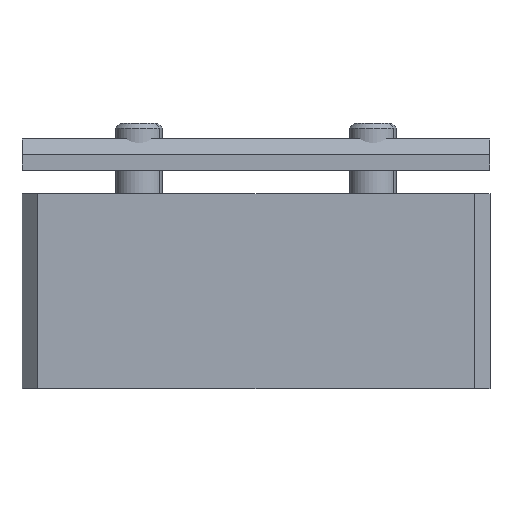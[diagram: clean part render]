
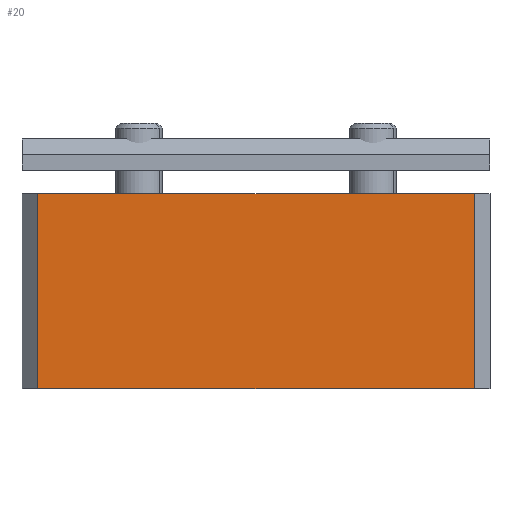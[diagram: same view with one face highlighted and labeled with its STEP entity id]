
A CAD part, front view. The second image highlights one B-rep face of the part: STEP entity #20.
In plain terms, the highlighted planar face has unit normal (0, -1, 0).
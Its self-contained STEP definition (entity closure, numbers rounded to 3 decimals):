
#20 = ADVANCED_FACE ( 'NONE', ( #1088 ), #830, .T. ) ;
#66 = AXIS2_PLACEMENT_3D ( 'NONE', #788, #1782, #1781 ) ;
#177 = EDGE_CURVE ( 'NONE', #1242, #1223, #859, .T. ) ;
#178 = EDGE_CURVE ( 'NONE', #1223, #1239, #855, .T. ) ;
#179 = EDGE_CURVE ( 'NONE', #1242, #1198, #853, .T. ) ;
#186 = EDGE_CURVE ( 'NONE', #1198, #1239, #851, .T. ) ;
#358 = CARTESIAN_POINT ( 'NONE',  ( -2., -7.5, 25. ) ) ;
#386 = CARTESIAN_POINT ( 'NONE',  ( -58., -7.5, 25. ) ) ;
#451 = CARTESIAN_POINT ( 'NONE',  ( -2., -7.5, 0. ) ) ;
#668 = DIRECTION ( 'NONE',  ( 0., 0., 1. ) ) ;
#670 = CARTESIAN_POINT ( 'NONE',  ( -58., -7.5, 0. ) ) ;
#672 = DIRECTION ( 'NONE',  ( 1., 0., 0. ) ) ;
#675 = CARTESIAN_POINT ( 'NONE',  ( -58., -7.5, 0. ) ) ;
#678 = DIRECTION ( 'NONE',  ( 1., 0., 0. ) ) ;
#679 = CARTESIAN_POINT ( 'NONE',  ( -58., -7.5, 25. ) ) ;
#681 = DIRECTION ( 'NONE',  ( 0., 0., 1. ) ) ;
#682 = CARTESIAN_POINT ( 'NONE',  ( -2., -7.5, 0. ) ) ;
#697 = CARTESIAN_POINT ( 'NONE',  ( -58., -7.5, 0. ) ) ;
#788 = CARTESIAN_POINT ( 'NONE',  ( -58., -7.5, 0. ) ) ;
#830 = PLANE ( 'NONE',  #66 ) ;
#846 = VECTOR ( 'NONE', #668, 1000. ) ;
#850 = VECTOR ( 'NONE', #672, 1000. ) ;
#851 = LINE ( 'NONE', #682, #846 ) ;
#852 = VECTOR ( 'NONE', #678, 1000. ) ;
#853 = LINE ( 'NONE', #675, #850 ) ;
#854 = VECTOR ( 'NONE', #681, 1000. ) ;
#855 = LINE ( 'NONE', #679, #852 ) ;
#859 = LINE ( 'NONE', #697, #854 ) ;
#980 = ORIENTED_EDGE ( 'NONE', *, *, #186, .T. ) ;
#987 = ORIENTED_EDGE ( 'NONE', *, *, #179, .T. ) ;
#991 = ORIENTED_EDGE ( 'NONE', *, *, #177, .F. ) ;
#1088 = FACE_OUTER_BOUND ( 'NONE', #1133, .T. ) ;
#1133 = EDGE_LOOP ( 'NONE', ( #1392, #991, #987, #980 ) ) ;
#1198 = VERTEX_POINT ( 'NONE', #451 ) ;
#1223 = VERTEX_POINT ( 'NONE', #386 ) ;
#1239 = VERTEX_POINT ( 'NONE', #358 ) ;
#1242 = VERTEX_POINT ( 'NONE', #670 ) ;
#1392 = ORIENTED_EDGE ( 'NONE', *, *, #178, .F. ) ;
#1781 = DIRECTION ( 'NONE',  ( 0., 0., -1. ) ) ;
#1782 = DIRECTION ( 'NONE',  ( 0., -1., 0. ) ) ;
